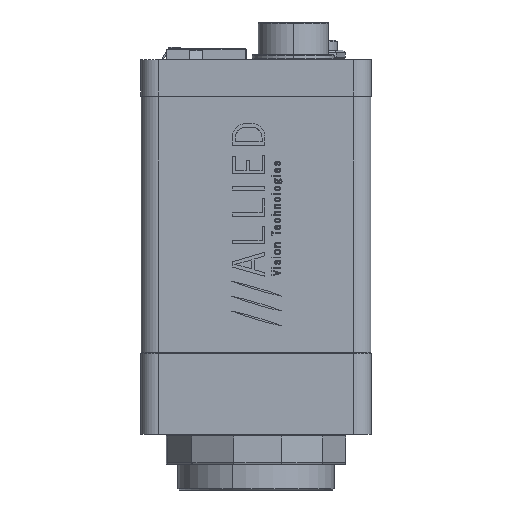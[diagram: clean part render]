
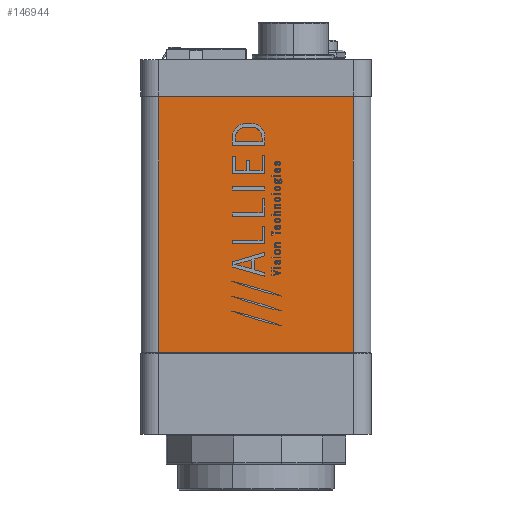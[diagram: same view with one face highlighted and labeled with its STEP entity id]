
A CAD part, left-side view. The second image highlights one B-rep face of the part: STEP entity #146944.
In plain terms, the highlighted planar face has unit normal (-1, 0, 0).
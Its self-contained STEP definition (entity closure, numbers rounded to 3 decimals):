
#141 = EDGE_CURVE ( 'NONE', #84211, #57758, #59017, .T. ) ;
#3600 = VECTOR ( 'NONE', #12470, 1000. ) ;
#3650 = CARTESIAN_POINT ( 'NONE',  ( -25.714, 16.558, 43.65 ) ) ;
#12113 = DIRECTION ( 'NONE',  ( 0., 1., 0. ) ) ;
#12470 = DIRECTION ( 'NONE',  ( 0., 0., 1. ) ) ;
#14104 = CARTESIAN_POINT ( 'NONE',  ( -25.714, 16.558, 108.336 ) ) ;
#15948 = VECTOR ( 'NONE', #188636, 1000. ) ;
#27455 = EDGE_CURVE ( 'NONE', #57758, #123241, #147783, .T. ) ;
#30077 = DIRECTION ( 'NONE',  ( 0., 0., 1. ) ) ;
#45969 = CARTESIAN_POINT ( 'NONE',  ( -25.714, -16.558, 0. ) ) ;
#48100 = EDGE_CURVE ( 'NONE', #123241, #73308, #54475, .T. ) ;
#54475 = LINE ( 'NONE', #3650, #139025 ) ;
#57758 = VERTEX_POINT ( 'NONE', #110090 ) ;
#59017 = LINE ( 'NONE', #105912, #138560 ) ;
#59839 = EDGE_LOOP ( 'NONE', ( #203348, #99163, #155394, #129752 ) ) ;
#61176 = CARTESIAN_POINT ( 'NONE',  ( -25.714, -16.558, 43.65 ) ) ;
#73308 = VERTEX_POINT ( 'NONE', #61176 ) ;
#84211 = VERTEX_POINT ( 'NONE', #45969 ) ;
#93044 = LINE ( 'NONE', #202998, #3600 ) ;
#99163 = ORIENTED_EDGE ( 'NONE', *, *, #141, .F. ) ;
#105912 = CARTESIAN_POINT ( 'NONE',  ( -25.714, -16.558, 0. ) ) ;
#108632 = CARTESIAN_POINT ( 'NONE',  ( -25.714, 16.558, 108.336 ) ) ;
#110090 = CARTESIAN_POINT ( 'NONE',  ( -25.714, 16.558, 0. ) ) ;
#114782 = DIRECTION ( 'NONE',  ( 0., -1., 0. ) ) ;
#123241 = VERTEX_POINT ( 'NONE', #183886 ) ;
#125315 = DIRECTION ( 'NONE',  ( -1., 0., 0. ) ) ;
#129752 = ORIENTED_EDGE ( 'NONE', *, *, #48100, .F. ) ;
#137183 = FACE_OUTER_BOUND ( 'NONE', #59839, .T. ) ;
#138560 = VECTOR ( 'NONE', #12113, 1000. ) ;
#139025 = VECTOR ( 'NONE', #114782, 1000. ) ;
#145648 = AXIS2_PLACEMENT_3D ( 'NONE', #14104, #125315, #30077 ) ;
#146944 = ADVANCED_FACE ( 'NONE', ( #137183 ), #156596, .T. ) ;
#147783 = LINE ( 'NONE', #108632, #15948 ) ;
#155394 = ORIENTED_EDGE ( 'NONE', *, *, #196755, .T. ) ;
#156596 = PLANE ( 'NONE',  #145648 ) ;
#183886 = CARTESIAN_POINT ( 'NONE',  ( -25.714, 16.558, 43.65 ) ) ;
#188636 = DIRECTION ( 'NONE',  ( 0., 0., 1. ) ) ;
#196755 = EDGE_CURVE ( 'NONE', #84211, #73308, #93044, .T. ) ;
#202998 = CARTESIAN_POINT ( 'NONE',  ( -25.714, -16.558, 108.336 ) ) ;
#203348 = ORIENTED_EDGE ( 'NONE', *, *, #27455, .F. ) ;
